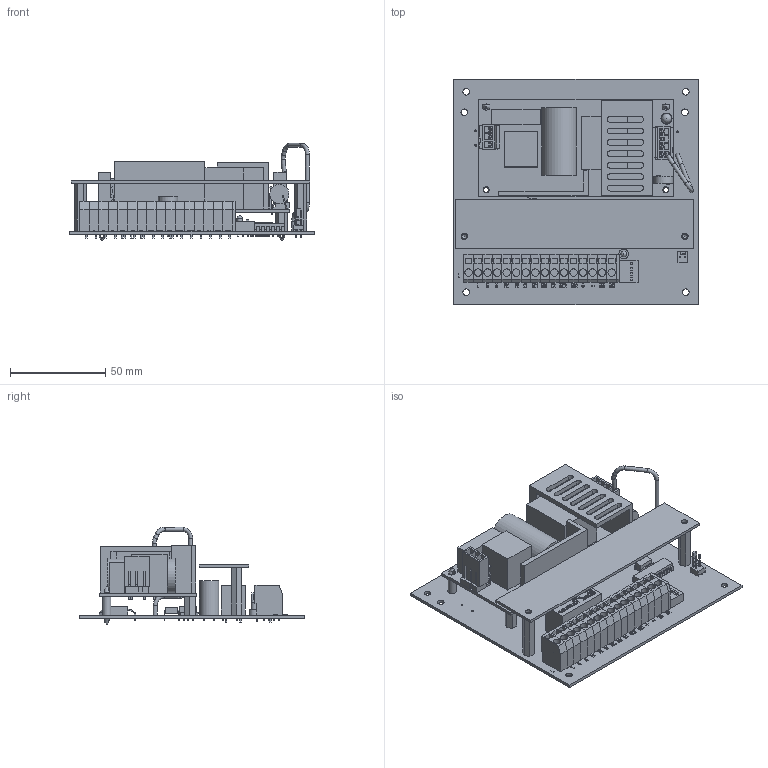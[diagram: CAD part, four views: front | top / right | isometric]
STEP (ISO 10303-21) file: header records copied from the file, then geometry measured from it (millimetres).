
FILE_DESCRIPTION(/* description */ ('Unknown'),/* implementation_level */ '2;1');
FILE_NAME(/* name */ 'STD_00001966#00',/* time_stamp */ '2025-07-03T14:11:29+02:00',/* author */ ('Unknown'),/* organization */ ('Unknown'),/* preprocessor_version */ 'ST-DEVELOPER v20',/* originating_system */ 'Solid Edge',/* authorisation */ 'Unknown');
FILE_SCHEMA (('AUTOMOTIVE_DESIGN {1 0 10303 214 3 1 1}'));
Length unit declared in the file: millimetre
Products named in the file (28): STD_00001966#00; STD_00001988#00; STD_00001990#00; STD_00001989#00; STD_00001991#00; STD_00001992#00; STD_00001993#00; STD_00001967#00; STD_00001968#00; STD_00001969#00; STD_00001970#00; STD_00001977#00; STD_00001984#00; STD_00001979#00; STD_00001982#00; STD_00001981#00; STD_00001986#00; STD_00001983#00; STD_00001976#00; STD_00001987#00; STD_00001980#00; STD_00001972#00; STD_00001973#00; STD_00001975#00; STD_00001978#00; STD_00001971#00; STD_00001974#00; STD_00001985#00
Assembly tree (46 placements, depth 4):
  STD_00001966#00
    STD_00001988#00
      STD_00001990#00
      STD_00001989#00
      STD_00001991#00
      STD_00001992#00
      STD_00001993#00
    STD_00001967#00
      STD_00001968#00
        STD_00001969#00  x16
        STD_00001970#00
      STD_00001977#00
      STD_00001984#00
      STD_00001979#00
      STD_00001982#00
      STD_00001981#00
      STD_00001986#00
      STD_00001983#00
      STD_00001976#00
      STD_00001987#00
      STD_00001980#00  x2
      STD_00001972#00
      STD_00001973#00  x2
      STD_00001975#00  x2
      STD_00001978#00  x2
      STD_00001971#00
      STD_00001974#00
      STD_00001985#00
Bounding box: 128 x 118 x 51.05 mm (x, y, z)
Volume: 113084.9 mm3; surface area: 94414.1 mm2
Topology: 43 solids, 43 shells, 2168 faces, 5489 edges, 3646 vertices
Faces by surface type: plane 1919, cylinder 130, bspline 97, torus 14, cone 8
Full cylindrical faces by diameter (mm): 0.1 x6, 0.6 x18, 0.8 x10, 1 x4, 2.1 x6, 2.459 x10, 2.9 x1, 3.2 x4, 3.4 x6, 3.5 x8, 3.9 x16, 4.3 x2, 4.5 x2, 5 x1, 5.1 x1, 5.8 x1, 10 x1, 10.2 x1
Entity records: 59107 total; most frequent: CARTESIAN_POINT 13411, ORIENTED_EDGE 7574, DIRECTION 6402, EDGE_CURVE 3787, LINE 3018, VECTOR 3018, VERTEX_POINT 2571, FACE_BOUND 1902
